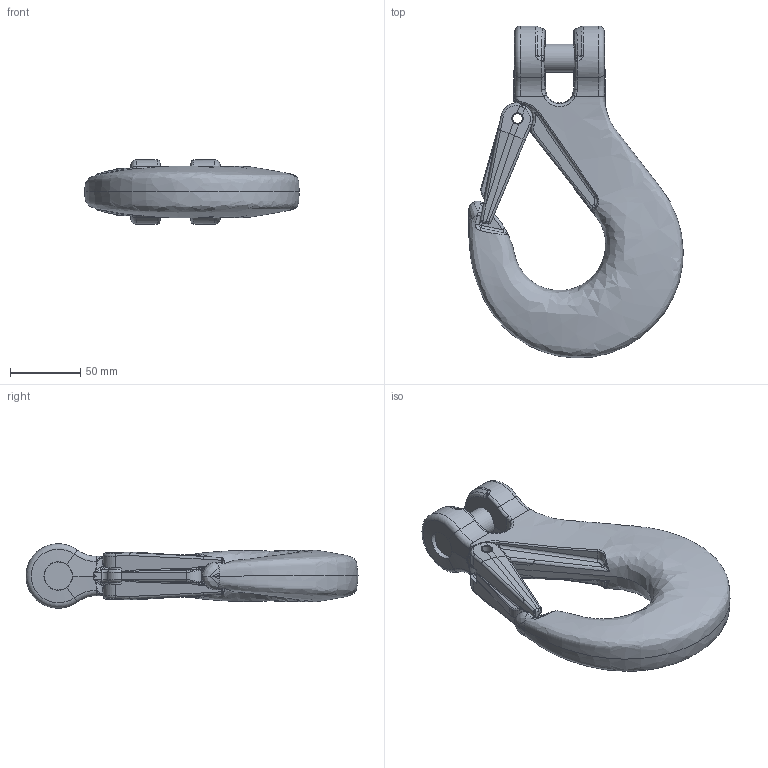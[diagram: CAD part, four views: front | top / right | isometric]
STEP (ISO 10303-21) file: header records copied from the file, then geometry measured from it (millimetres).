
FILE_DESCRIPTION(/* description */ (''),/* implementation_level */ '2;1');
FILE_NAME(/* name */ 'KHSW 16 Kundenmodell',/* time_stamp */ '2009-09-16T09:50:29+02:00',/* author */ (''),/* organization */ (''),/* preprocessor_version */ 'ST-DEVELOPER v9',/* originating_system */ 'UGS - NX 4.0',/* authorisation */ '');
FILE_SCHEMA (('AUTOMOTIVE_DESIGN { 1 0 10303 214 1 1 1 1 }'));
Length unit declared in the file: millimetre
Products named in the file (1): rit49021sbo
Bounding box: 153.09 x 236.98 x 46 mm (x, y, z)
Volume: 512961.4 mm3; surface area: 74263.6 mm2
Topology: 4 solids, 4 shells, 430 faces, 1071 edges, 619 vertices
Faces by surface type: bspline 196, cylinder 117, plane 75, torus 30, cone 8, sphere 4
Full cylindrical faces by diameter (mm): 7 x1, 8 x4, 14 x2, 20 x1, 20.4 x2
Entity records: 27067 total; most frequent: CARTESIAN_POINT 18344, ORIENTED_EDGE 2060, DIRECTION 1527, EDGE_CURVE 1030, AXIS2_PLACEMENT_3D 648, VERTEX_POINT 614, EDGE_LOOP 448, ADVANCED_FACE 430
